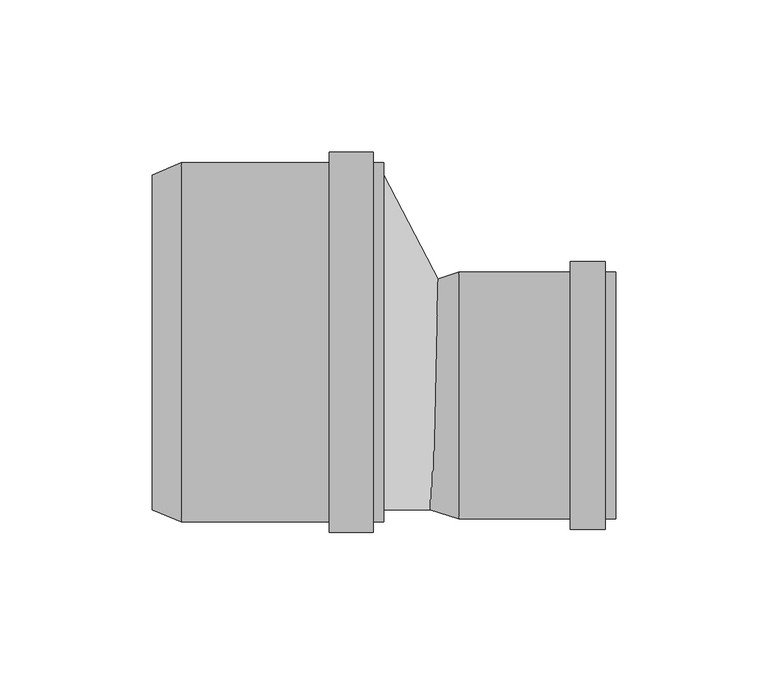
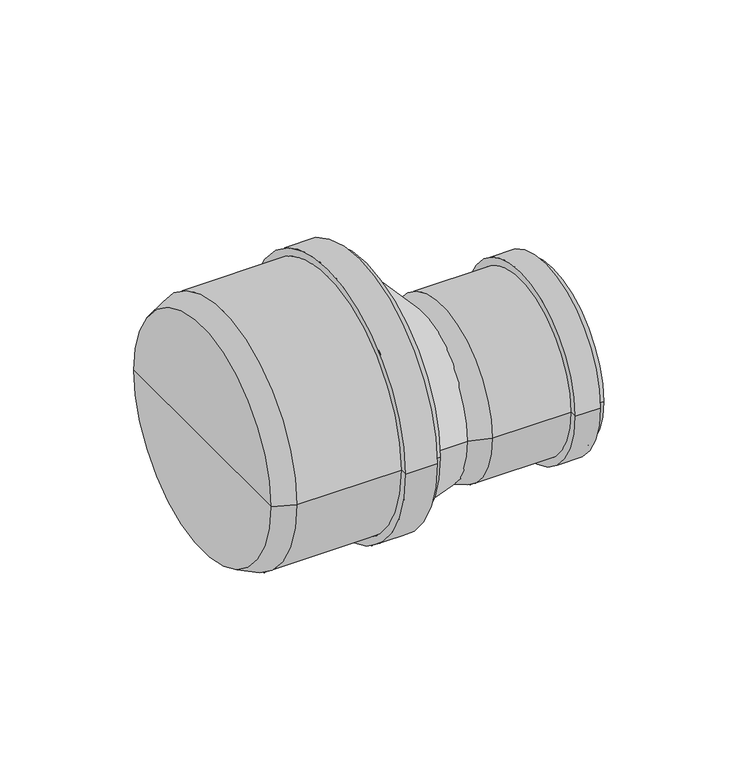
"""IFC4 building model written with IfcOpenShell, lengths in millimetres: pipe fitting geometry, pf_HTR_red-nes-kratka : pf_HTR_red-nes-kratka."""

from ifc_helpers import new_model, si_unit, frame, origin, place, context, project, spatial, polyline, circle_curve, source, transform, mapped, element, save
from ifc_brep_helpers import plane_surface, cylinder_surface, revolved_surface, spline_surface, advanced_brep


def pipe_fitting_b25ac495(model_context):
    return source(origin(), model_context, "Body", "AdvancedBrep", [
        advanced_brep(
        [(-76.0, -55.0, 0.0), (-76.0, 55.0, 0.0), (-66.5, 59.1, 0.0), (-66.5, -59.1, 0.0), (-76.0, 0.0, 0.0), (0.0, -59.1, 0.0), (0.0, 59.1, 0.0), (0.0, 0.0, 0.0), (-3.4, -59.1, 0.0), (-3.4, 59.1, 0.0), (-3.4, -62.5, 0.0), (-3.4, 62.5, 0.0), (-17.9, -62.5, 0.0), (-17.9, 62.5, 0.0), (-17.9, -59.1, 0.0), (-17.9, 59.1, 0.0)],
        [
            (0, 1, circle_curve(frame((-76.0, 0.0, 0.0), z_axis=(1.0, 0.0, 0.0), x_axis=(0.0, 1.0, 0.0)), 55.0)),
            (1, 2),
            (2, 3, circle_curve(frame((-66.5, 0.0, 0.0), z_axis=(-1.0, 0.0, 0.0), x_axis=(0.0, 1.0, 0.0)), 59.1)),
            (3, 0),
            (1, 0, circle_curve(frame((-76.0, 0.0, 0.0), z_axis=(1.0, 0.0, 0.0), x_axis=(0.0, 1.0, 0.0)), 55.0)),
            (3, 2, circle_curve(frame((-66.5, 0.0, 0.0), z_axis=(-1.0, 0.0, 0.0), x_axis=(0.0, 1.0, 0.0)), 59.1)),
            (4, 1),
            (0, 4),
            (5, 6, circle_curve(frame((0.0, 0.0, 0.0), z_axis=(1.0, 0.0, 0.0), x_axis=(0.0, 1.0, 0.0)), 59.1)),
            (6, 7),
            (7, 5),
            (6, 5, circle_curve(frame((0.0, 0.0, 0.0), z_axis=(1.0, 0.0, 0.0), x_axis=(0.0, 1.0, 0.0)), 59.1)),
            (8, 9, circle_curve(frame((-3.4, 0.0, 0.0), z_axis=(1.0, 0.0, 0.0), x_axis=(0.0, 1.0, 0.0)), 59.1)),
            (9, 6),
            (5, 8),
            (9, 8, circle_curve(frame((-3.4, 0.0, 0.0), z_axis=(1.0, 0.0, 0.0), x_axis=(0.0, 1.0, 0.0)), 59.1)),
            (10, 11, circle_curve(frame((-3.4, 0.0, 0.0), z_axis=(1.0, 0.0, 0.0), x_axis=(0.0, 1.0, 0.0)), 62.5)),
            (11, 9),
            (8, 10),
            (11, 10, circle_curve(frame((-3.4, 0.0, 0.0), z_axis=(1.0, 0.0, 0.0), x_axis=(0.0, 1.0, 0.0)), 62.5)),
            (12, 13, circle_curve(frame((-17.9, 0.0, 0.0), z_axis=(1.0, 0.0, 0.0), x_axis=(0.0, 1.0, 0.0)), 62.5)),
            (13, 11),
            (10, 12),
            (13, 12, circle_curve(frame((-17.9, 0.0, 0.0), z_axis=(1.0, 0.0, 0.0), x_axis=(0.0, 1.0, 0.0)), 62.5)),
            (14, 15, circle_curve(frame((-17.9, 0.0, 0.0), z_axis=(1.0, 0.0, 0.0), x_axis=(0.0, 1.0, 0.0)), 59.1)),
            (15, 13),
            (12, 14),
            (15, 14, circle_curve(frame((-17.9, 0.0, 0.0), z_axis=(1.0, 0.0, 0.0), x_axis=(0.0, 1.0, 0.0)), 59.1)),
            (2, 15),
            (14, 3),
        ],
        [
            revolved_surface(polyline([(-66.5, 59.1, 0.0), (-76.0, 55.0, 0.0)]), (-76.0, 0.0, 0.0), (-1.0, 0.0, 0.0)),
            plane_surface(frame((-76.0, 0.0, 0.0), z_axis=(-1.0, 0.0, 0.0), x_axis=(0.0, 1.0, 0.0))),
            plane_surface(frame((0.0, 0.0, 0.0), z_axis=(1.0, 0.0, 0.0), x_axis=(0.0, 1.0, 0.0))),
            cylinder_surface(frame((-76.0, 0.0, 0.0), z_axis=(-1.0, 0.0, 0.0), x_axis=(0.0, 1.0, 0.0)), 59.1),
            plane_surface(frame((-3.4, 0.0, 0.0), z_axis=(1.0, 0.0, 0.0), x_axis=(0.0, 1.0, 0.0))),
            cylinder_surface(frame((-76.0, 0.0, 0.0), z_axis=(-1.0, 0.0, 0.0), x_axis=(0.0, 1.0, 0.0)), 62.5),
            plane_surface(frame((-17.9, 0.0, 0.0), z_axis=(-1.0, 0.0, 0.0), x_axis=(0.0, 1.0, 0.0))),
        ],
        [
            (0, [[1, 2, 3, 4]]),
            (0, [[5, -4, 6, -2]]),
            (1, [[7, -1, 8]]),
            (1, [[-8, -5, -7]]),
            (2, [[9, 10, 11]]),
            (2, [[12, -11, -10]]),
            (3, [[13, 14, -9, 15]]),
            (3, [[16, -15, -12, -14]]),
            (4, [[17, 18, -13, 19]]),
            (4, [[20, -19, -16, -18]]),
            (5, [[21, 22, -17, 23]]),
            (5, [[24, -23, -20, -22]]),
            (6, [[25, 26, -21, 27]]),
            (6, [[28, -27, -24, -26]]),
            (3, [[-3, 29, -25, 30]]),
            (3, [[-6, -30, -28, -29]]),
        ],
    ),
        advanced_brep(
        [(15.25, -55.0, 0.0), (15.25, 20.0, 0.0), (24.75, 23.1, 0.0), (24.75, -58.1, 0.0), (15.25, -17.5, 0.0), (76.25, -58.1, 0.0), (76.25, 23.1, 0.0), (76.25, -17.5, 0.0), (72.85, -58.1, 0.0), (72.85, 23.1, 0.0), (72.85, -61.5, 0.0), (72.85, 26.5, 0.0), (61.25, -61.5, 0.0), (61.25, 26.5, 0.0), (61.25, -58.1, 0.0), (61.25, 23.1, 0.0)],
        [
            (0, 1, circle_curve(frame((15.25, -17.5, 0.0), z_axis=(1.0, 0.0, 0.0), x_axis=(0.0, 1.0, 0.0)), 37.5)),
            (1, 2),
            (2, 3, circle_curve(frame((24.75, -17.5, 0.0), z_axis=(-1.0, 0.0, 0.0), x_axis=(0.0, 1.0, 0.0)), 40.6)),
            (3, 0),
            (1, 0, circle_curve(frame((15.25, -17.5, 0.0), z_axis=(1.0, 0.0, 0.0), x_axis=(0.0, 1.0, 0.0)), 37.5)),
            (3, 2, circle_curve(frame((24.75, -17.5, 0.0), z_axis=(-1.0, 0.0, 0.0), x_axis=(0.0, 1.0, 0.0)), 40.6)),
            (4, 1),
            (0, 4),
            (5, 6, circle_curve(frame((76.25, -17.5, 0.0), z_axis=(1.0, 0.0, 0.0), x_axis=(0.0, 1.0, 0.0)), 40.6)),
            (6, 7),
            (7, 5),
            (6, 5, circle_curve(frame((76.25, -17.5, 0.0), z_axis=(1.0, 0.0, 0.0), x_axis=(0.0, 1.0, 0.0)), 40.6)),
            (8, 9, circle_curve(frame((72.85, -17.5, 0.0), z_axis=(1.0, 0.0, 0.0), x_axis=(0.0, 1.0, 0.0)), 40.6)),
            (9, 6),
            (5, 8),
            (9, 8, circle_curve(frame((72.85, -17.5, 0.0), z_axis=(1.0, 0.0, 0.0), x_axis=(0.0, 1.0, 0.0)), 40.6)),
            (10, 11, circle_curve(frame((72.85, -17.5, 0.0), z_axis=(1.0, 0.0, 0.0), x_axis=(0.0, 1.0, 0.0)), 44.0)),
            (11, 9),
            (8, 10),
            (11, 10, circle_curve(frame((72.85, -17.5, 0.0), z_axis=(1.0, 0.0, 0.0), x_axis=(0.0, 1.0, 0.0)), 44.0)),
            (12, 13, circle_curve(frame((61.25, -17.5, 0.0), z_axis=(1.0, 0.0, 0.0), x_axis=(0.0, 1.0, 0.0)), 44.0)),
            (13, 11),
            (10, 12),
            (13, 12, circle_curve(frame((61.25, -17.5, 0.0), z_axis=(1.0, 0.0, 0.0), x_axis=(0.0, 1.0, 0.0)), 44.0)),
            (14, 15, circle_curve(frame((61.25, -17.5, 0.0), z_axis=(1.0, 0.0, 0.0), x_axis=(0.0, 1.0, 0.0)), 40.6)),
            (15, 13),
            (12, 14),
            (15, 14, circle_curve(frame((61.25, -17.5, 0.0), z_axis=(1.0, 0.0, 0.0), x_axis=(0.0, 1.0, 0.0)), 40.6)),
            (2, 15),
            (14, 3),
        ],
        [
            revolved_surface(polyline([(24.75, 23.1, 0.0), (15.25, 20.0, 0.0)]), (15.25, -17.5, 0.0), (-1.0, 0.0, 0.0)),
            plane_surface(frame((15.25, -17.5, 0.0), z_axis=(-1.0, 0.0, 0.0), x_axis=(0.0, 1.0, 0.0))),
            plane_surface(frame((76.25, -17.5, 0.0), z_axis=(1.0, 0.0, 0.0), x_axis=(0.0, 1.0, 0.0))),
            cylinder_surface(frame((15.25, -17.5, 0.0), z_axis=(-1.0, 0.0, 0.0), x_axis=(0.0, 1.0, 0.0)), 40.6),
            plane_surface(frame((72.85, -17.5, 0.0), z_axis=(1.0, 0.0, 0.0), x_axis=(0.0, 1.0, 0.0))),
            cylinder_surface(frame((15.25, -17.5, 0.0), z_axis=(-1.0, 0.0, 0.0), x_axis=(0.0, 1.0, 0.0)), 44.0),
            plane_surface(frame((61.25, -17.5, 0.0), z_axis=(-1.0, 0.0, 0.0), x_axis=(0.0, 1.0, 0.0))),
        ],
        [
            (0, [[1, 2, 3, 4]]),
            (0, [[5, -4, 6, -2]]),
            (1, [[7, -1, 8]]),
            (1, [[-8, -5, -7]]),
            (2, [[9, 10, 11]]),
            (2, [[12, -11, -10]]),
            (3, [[13, 14, -9, 15]]),
            (3, [[16, -15, -12, -14]]),
            (4, [[17, 18, -13, 19]]),
            (4, [[20, -19, -16, -18]]),
            (5, [[21, 22, -17, 23]]),
            (5, [[24, -23, -20, -22]]),
            (6, [[25, 26, -21, 27]]),
            (6, [[28, -27, -24, -26]]),
            (3, [[-3, 29, -25, 30]]),
            (3, [[-6, -30, -28, -29]]),
        ],
    ),
        advanced_brep(
        [(18.25, -55.0, 0.0), (18.25, 20.0, 0.0), (0.0, -55.0, 0.0), (0.0, 55.0, 0.0)],
        [
            (0, 1, circle_curve(frame((18.25, -17.5, 0.0), z_axis=(1.0, 0.0, 0.0), x_axis=(0.0, 1.0, 0.0)), 37.5)),
            (1, 0, circle_curve(frame((18.25, -17.5, 0.0), z_axis=(1.0, 0.0, 0.0), x_axis=(0.0, 1.0, 0.0)), 37.5)),
            (2, 3, circle_curve(frame((0.0, 0.0, 0.0), z_axis=(-1.0, 0.0, 0.0), x_axis=(0.0, 1.0, 0.0)), 55.0)),
            (3, 2, circle_curve(frame((0.0, 0.0, 0.0), z_axis=(-1.0, 0.0, 0.0), x_axis=(0.0, 1.0, 0.0)), 55.0)),
            (3, 1),
            (0, 2),
        ],
        [
            plane_surface(frame((18.25, -17.5, 0.0), z_axis=(1.0, 0.0, 0.0), x_axis=(0.0, 0.0, -1.0))),
            plane_surface(frame((0.0, 0.0, 0.0), z_axis=(-1.0, 0.0, 0.0), x_axis=(0.0, 0.0, -1.0))),
            spline_surface(2, 1, [[(0.0, -55.0, 0.0), (18.25, -55.0, 0.0)], [(0.0, -55.0, -55.0), (18.25, -55.0, -37.5)], [(0.0, 0.0, -55.0), (18.25, -17.5, -37.5)], [(0.0, 55.0, -55.0), (18.25, 20.0, -37.5)], [(0.0, 55.0, 0.0), (18.25, 20.0, 0.0)]], [3, 2, 3], [2, 2], [0.0, 1.0, 2.0], [0.0, 1.0], weights=[[1.0, 1.0], [0.7071067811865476, 0.7071067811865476], [1.0, 1.0], [0.7071067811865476, 0.7071067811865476], [1.0, 1.0]]),
            spline_surface(2, 1, [[(0.0, 55.0, 0.0), (18.25, 20.0, 0.0)], [(0.0, 55.0, 55.0), (18.25, 20.0, 37.5)], [(0.0, 0.0, 55.0), (18.25, -17.5, 37.5)], [(0.0, -55.0, 55.0), (18.25, -55.0, 37.5)], [(0.0, -55.0, 0.0), (18.25, -55.0, 0.0)]], [3, 2, 3], [2, 2], [0.0, 1.0, 2.0], [0.0, 1.0], weights=[[1.0, 1.0], [0.7071067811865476, 0.7071067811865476], [1.0, 1.0], [0.7071067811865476, 0.7071067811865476], [1.0, 1.0]]),
        ],
        [
            (0, [[1, 2]]),
            (1, [[3, 4]]),
            (2, [[-4, 5, -1, 6]]),
            (3, [[-3, -6, -2, -5]]),
        ],
    ),
    ])


if __name__ == "__main__":
    model = new_model("IFC4")
    model_context = context("Model", 3, world=origin())
    ifc_project = project(units=[si_unit("LENGTHUNIT", "METRE", prefix="MILLI")], contexts=[model_context])
    site = spatial("IfcSite", under=ifc_project)
    building = spatial("IfcBuilding", under=site)
    placement = place(None, origin())
    pipe_fitting_shape = pipe_fitting_b25ac495(model_context)
    element("IfcPipeFitting", 1, ObjectType="pf_HTR_red-nes-kratka : pf_HTR_red-nes-kratka", at=placement, inside=building, context=model_context, shape_type="MappedRepresentation", body=[
        mapped(pipe_fitting_shape, transform((0.0, 0.0, 0.0), x_axis=(1.0, 0.0, 0.0), y_axis=(0.0, 1.0, 0.0), z_axis=(0.0, 0.0, 1.0))),
    ])
    save(model, "model.ifc")
